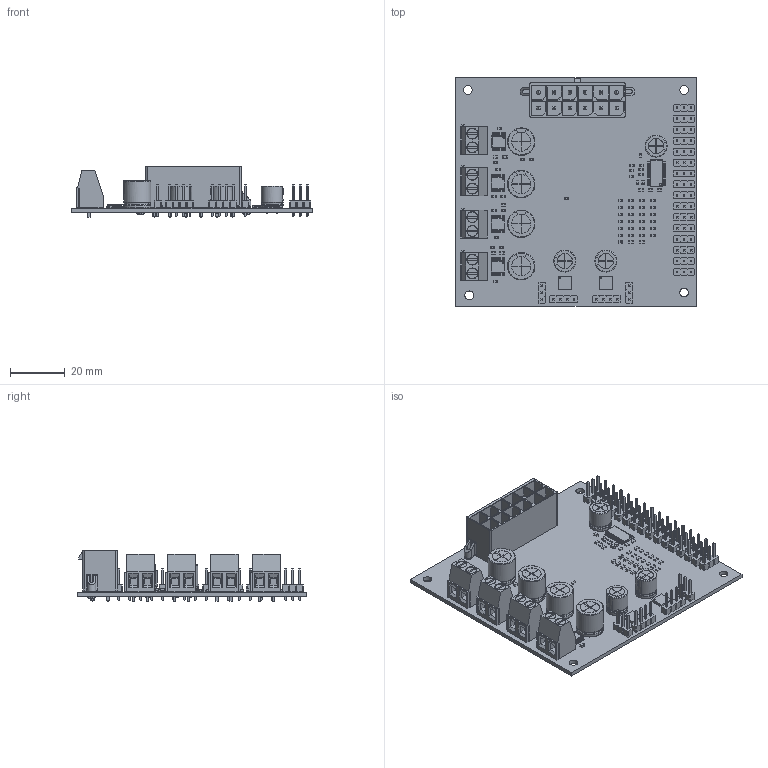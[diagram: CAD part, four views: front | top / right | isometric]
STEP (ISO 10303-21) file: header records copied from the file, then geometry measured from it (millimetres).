
FILE_DESCRIPTION(('KiCad electronic assembly'),'2;1');
FILE_NAME('robodev-actuators.step','2026-10-07T13:26:08',('Pcbnew'),( 'Kicad'),'Open CASCADE STEP processor 7.8','KiCad to STEP converter' ,'Unknown');
FILE_SCHEMA(('AUTOMOTIVE_DESIGN { 1 0 10303 214 1 1 1 1 }'));
Length unit declared in the file: millimetre
Products named in the file (25): robodev-actuators 1; R_0603_1608Metric; LED_0603_1608Metric; C_0603_1608Metric; TMC2209-LA-T; Body_Solid1; Body001_Solid1; Array_Solid1; Array001_Solid2; Body002_Solid1; Array002_Solid1; Array003_Solid2; Body003_Solid1; Body004_Solid1; DRV8874PWPR; PinHeader_1x03_P2.54mm_Vertical; CP_Radial_D10.0mm_P5.00mm; TerminalBlock_Phoenix_MKDS-1,5-2-5.08_1x02_P5.08mm_Horizontal; PCA9685PW,118; PinHeader_1x04_P2.54mm_Vertical; CP_Radial_D8.0mm_P3.50mm; 768290012; SOLID; COMPOUND; Robodev_Actuators_PCB
Assembly tree (148 placements, depth 3):
  robodev-actuators 1
    R_0603_1608Metric  x44
    LED_0603_1608Metric  x4
    C_0603_1608Metric  x27
    TMC2209-LA-T  x2
      Body_Solid1
      Body001_Solid1
      Array_Solid1
      Array001_Solid2
      Body002_Solid1
      Array002_Solid1
      Array003_Solid2
      Body003_Solid1
      Body004_Solid1
    DRV8874PWPR  x4
    PinHeader_1x03_P2.54mm_Vertical  x18
    CP_Radial_D10.0mm_P5.00mm  x4
    TerminalBlock_Phoenix_MKDS-1,5-2-5.08_1x02_P5.08mm_Horizontal  x4
    PCA9685PW,118
    PinHeader_1x04_P2.54mm_Vertical  x2
    CP_Radial_D8.0mm_P3.50mm  x3
    768290012
      SOLID
      COMPOUND
    Robodev_Actuators_PCB
Bounding box: 88 x 83.5 x 18.63 mm (x, y, z)
Volume: 23900.9 mm3; surface area: 34279.2 mm2
Topology: 275 solids, 282 shells, 7338 faces, 18532 edges, 12025 vertices
Faces by surface type: plane 5509, cylinder 1633, bspline 108, cone 40, revolution 34, torus 14
Full cylindrical faces by diameter (mm): 0.5 x10, 0.7 x8, 0.8 x6, 1 x70, 1.3 x8, 1.854 x12, 3.048 x2, 3.2 x4, 3.8 x8, 4 x8
Entity records: 73379 total; most frequent: CARTESIAN_POINT 15574, ORIENTED_EDGE 10986, DIRECTION 10683, EDGE_CURVE 5493, LINE 4101, VECTOR 4101, VERTEX_POINT 3601, AXIS2_PLACEMENT_3D 3286
